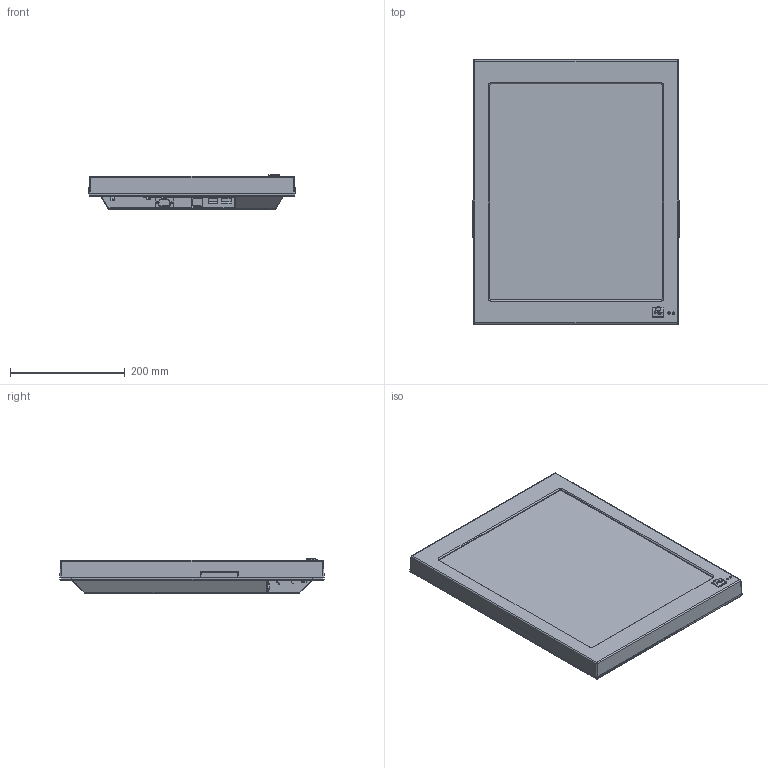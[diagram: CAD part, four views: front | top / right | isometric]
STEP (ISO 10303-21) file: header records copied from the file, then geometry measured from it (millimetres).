
FILE_DESCRIPTION (( 'STEP AP214' ), '1' );
FILE_NAME ('TAE1921 support.STEP', '2016-05-31T09:35:21', ( 'SIGMATEK GmbH & Co KG' ), ( 'SIGMATEK GmbH & Co KG' ), 'SwSTEP 2.0', 'SolidWorks 2015', '' );
FILE_SCHEMA (( 'AUTOMOTIVE_DESIGN' ));
Length unit declared in the file: millimetre
Products named in the file (11): TAE1921 support; Steckerblech TAE1921; TAE1921 LP support; 7227771121 Display AUO_G190EG02 V1; Higgstec_T190C-5RBA16X-3A28R4-200FH_Gerade; Erdungsaufkleber; USB-Abdeckung 3030201647-2 (RAL7024 grafitgrau)_mit Stiftdichtung; Abdeckung Chipkartendurchbruch 9_4_2; ETT192 Gehäuse support; 19z Frontrahmen support; Steckzunge 6,3 m.B. M3 DIN46244 St-verzinnt
Assembly tree (11 placements, depth 2):
  TAE1921 support
    Steckzunge 6,3 m.B. M3 DIN46244 St-verzinnt
    19z Frontrahmen support
    ETT192 Gehäuse support
    Abdeckung Chipkartendurchbruch 9_4_2  x2
    USB-Abdeckung 3030201647-2 (RAL7024 grafitgrau)_mit Stiftdichtung
    Erdungsaufkleber
    Higgstec_T190C-5RBA16X-3A28R4-200FH_Gerade
    7227771121 Display AUO_G190EG02 V1
    TAE1921 LP support
    Steckerblech TAE1921
Bounding box: 360 x 461.61 x 60.32 mm (x, y, z)
Volume: 2556243 mm3; surface area: 1207138.1 mm2
Topology: 12 solids, 12 shells, 1421 faces, 3604 edges, 2246 vertices
Faces by surface type: plane 932, cylinder 297, cone 67, bspline 60, torus 39, sphere 26
Entity records: 44311 total; most frequent: CARTESIAN_POINT 10063, ORIENTED_EDGE 6806, DIRECTION 6376, EDGE_CURVE 3403, VECTOR 2488, LINE 2488, VERTEX_POINT 2122, AXIS2_PLACEMENT_3D 1944
